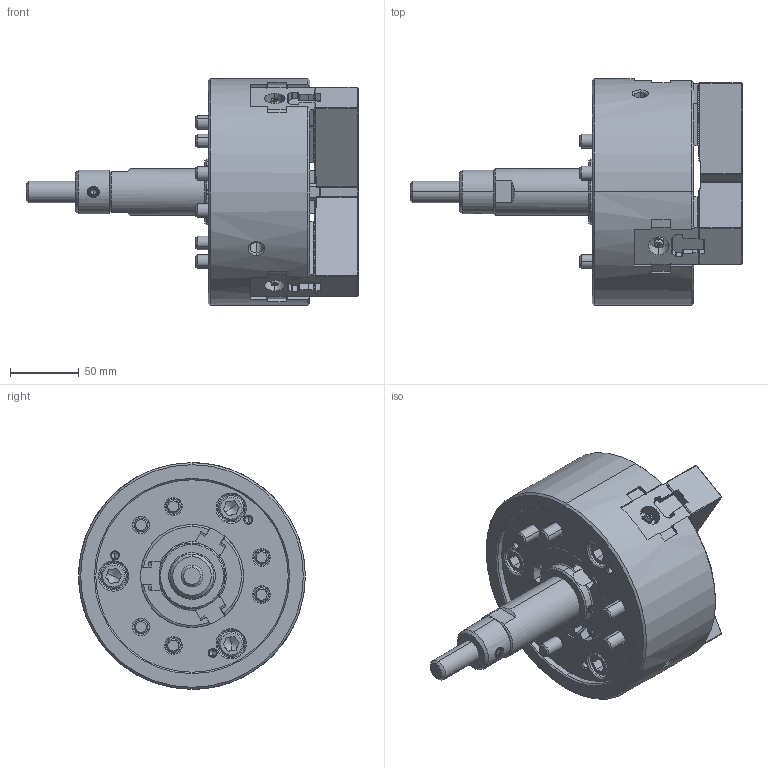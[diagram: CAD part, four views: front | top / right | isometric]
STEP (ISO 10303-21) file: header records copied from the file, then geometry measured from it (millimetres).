
FILE_DESCRIPTION (( 'STEP AP214' ), '1' );
FILE_NAME ('DT1_N-06_OUTSIDE_VIEW_OC.STEP', '2026-03-13T02:51:29', ( '' ), ( '' ), 'SwSTEP 2.0', 'SolidWorks 2022', '' );
FILE_SCHEMA (( 'AUTOMOTIVE_DESIGN' ));
Length unit declared in the file: millimetre
Products named in the file (11): DT1_N-06_COVER^DT1_N-06; DT1_N-06_DN^DT1_N-06; DT1_N-06_DRAWSCREW^DT1_N-06; DT1_N-06_OUTSIDE_VIEW_OC; DT1_N-06_M10x70^DT1_N-06; DT1_N-06_M5x12^DT1_N-06; Copy of P31410^DT1_N-06; DT1_N-06_TNUT^DT1_N-06; DT1_N-06_SOFTJAW^DT1_N-06; DT1_N-06_BASE^DT1_N-06; DT1_N-06_M10x30^DT1_N-06
Assembly tree (26 placements, depth 2):
  DT1_N-06_OUTSIDE_VIEW_OC
    DT1_N-06_SOFTJAW^DT1_N-06  x3
    DT1_N-06_TNUT^DT1_N-06  x3
    DT1_N-06_COVER^DT1_N-06
    DT1_N-06_DRAWSCREW^DT1_N-06
    Copy of P31410^DT1_N-06
    DT1_N-06_DN^DT1_N-06
    DT1_N-06_BASE^DT1_N-06
    DT1_N-06_M5x12^DT1_N-06  x3
    DT1_N-06_M10x30^DT1_N-06  x6
    DT1_N-06_M10x70^DT1_N-06  x6
Bounding box: 241.5 x 165 x 165 mm (x, y, z)
Volume: 1697937.1 mm3; surface area: 267889.1 mm2
Topology: 26 solids, 26 shells, 3686 faces, 10306 edges, 6718 vertices
Faces by surface type: plane 2162, cylinder 971, cone 356, bspline 133, torus 58, sphere 6
Entity records: 88479 total; most frequent: CARTESIAN_POINT 26419, ORIENTED_EDGE 13968, DIRECTION 11190, EDGE_CURVE 6984, VECTOR 4784, LINE 4784, VERTEX_POINT 4566, AXIS2_PLACEMENT_3D 3203
